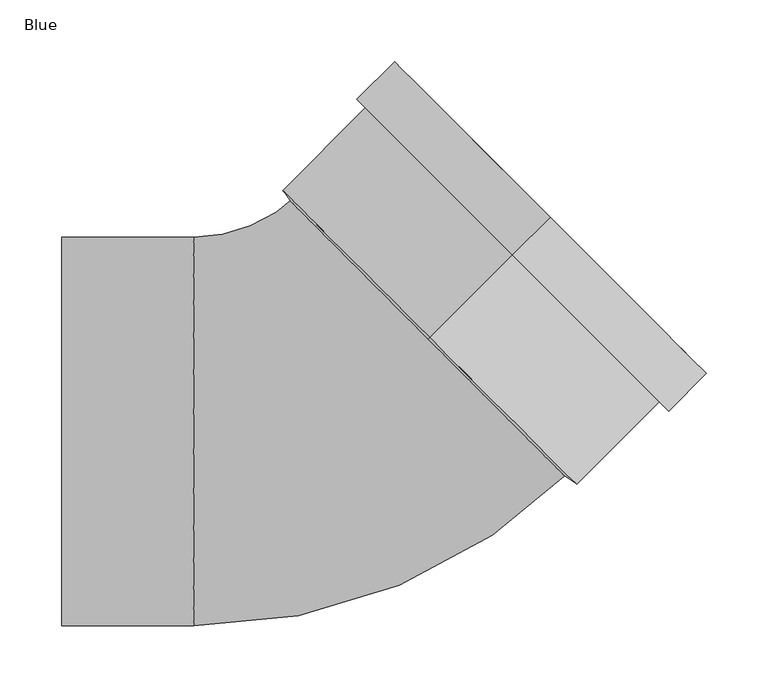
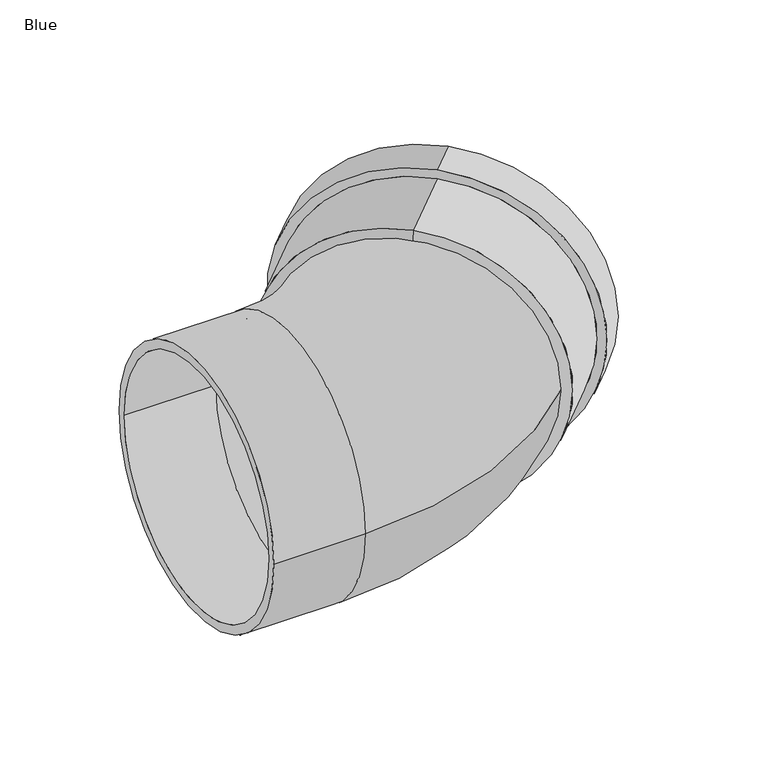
"""IFC4 building model written with IfcOpenShell, lengths in millimetres: pipe fitting geometry, AWADUKT PP SN10 Bend : Blue."""

from ifc_helpers import new_model, si_unit, point, frame, origin, place, context, project, spatial, polyline, circle_curve, ellipse_curve, trimmed, source, transform, mapped, element, save
from ifc_brep_helpers import plane_surface, cylinder_surface, revolved_surface, advanced_brep


def blue_be0330f0(model_context):
    return source(origin(), model_context, "Body", "AdvancedBrep", [
        advanced_brep(
        [(143.1891232, 143.1891232, 168.3), (143.1891232, 143.1891232, -168.3), (76.2558487, 76.2558487, -168.3), (76.2558487, 76.2558487, 168.3), (173.7361361, 173.7361361, 179.1), (173.7361361, 173.7361361, -179.1), (143.1891232, 143.1891232, -179.1), (143.1891232, 143.1891232, 179.1), (166.0993829, 166.0993829, 157.5), (166.0993829, 166.0993829, -157.5), (173.7361361, 173.7361361, -157.5), (173.7361361, 173.7361361, 157.5), (150.8258764, 150.8258764, 168.3), (150.8258764, 150.8258764, -168.3), (166.0993829, 166.0993829, -168.3), (166.0993829, 166.0993829, 168.3), (82.6638455, 82.6638455, 157.5), (82.6638455, 82.6638455, -157.5), (150.8258764, 150.8258764, -157.5), (150.8258764, 150.8258764, 157.5), (81.3172798, 81.3172798, 146.7), (81.3172798, 81.3172798, -146.7), (73.5627174, 73.5627174, 146.7), (73.5627174, 73.5627174, -146.7)],
        [
            (0, 1, circle_curve(frame((143.1891232, 143.1891232, 0.0), z_axis=(-0.7071067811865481, -0.7071067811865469, 0.0), x_axis=(0.0, 0.0, -1.0)), 168.3)),
            (1, 2),
            (2, 3, circle_curve(frame((76.2558487, 76.2558487, 0.0), z_axis=(0.7071067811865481, 0.7071067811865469, 0.0), x_axis=(0.0, 0.0, -1.0)), 168.3)),
            (3, 0),
            (4, 5, circle_curve(frame((173.7361361, 173.7361361, 0.0), z_axis=(-0.7071067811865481, -0.7071067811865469, 0.0), x_axis=(0.0, 0.0, -1.0)), 179.1)),
            (5, 6),
            (6, 7, circle_curve(frame((143.1891232, 143.1891232, 0.0), z_axis=(0.7071067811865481, 0.7071067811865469, 0.0), x_axis=(0.0, 0.0, -1.0)), 179.1)),
            (7, 4),
            (8, 9, circle_curve(frame((166.0993829, 166.0993829, 0.0), z_axis=(-0.7071067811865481, -0.7071067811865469, 0.0), x_axis=(0.0, 0.0, -1.0)), 157.5)),
            (9, 10),
            (10, 11, circle_curve(frame((173.7361361, 173.7361361, 0.0), z_axis=(0.7071067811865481, 0.7071067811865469, 0.0), x_axis=(0.0, 0.0, -1.0)), 157.5)),
            (11, 8),
            (12, 13, circle_curve(frame((150.8258764, 150.8258764, 0.0), z_axis=(-0.7071067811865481, -0.7071067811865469, 0.0), x_axis=(0.0, 0.0, -1.0)), 168.3)),
            (13, 14),
            (14, 15, circle_curve(frame((166.0993829, 166.0993829, 0.0), z_axis=(0.7071067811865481, 0.7071067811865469, 0.0), x_axis=(0.0, 0.0, -1.0)), 168.3)),
            (15, 12),
            (16, 17, circle_curve(frame((82.6638455, 82.6638455, 0.0), z_axis=(-0.7071067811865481, -0.7071067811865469, 0.0), x_axis=(0.0, 0.0, -1.0)), 157.5)),
            (17, 18),
            (18, 19, circle_curve(frame((150.8258764, 150.8258764, 0.0), z_axis=(0.7071067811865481, 0.7071067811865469, 0.0), x_axis=(0.0, 0.0, -1.0)), 157.5)),
            (19, 16),
            (20, 21, circle_curve(frame((81.3172798, 81.3172798, 0.0), z_axis=(-0.7071067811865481, -0.7071067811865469, 0.0), x_axis=(0.0, 0.0, -1.0)), 146.7)),
            (21, 17),
            (16, 20),
            (22, 23, circle_curve(frame((73.5627174, 73.5627174, 0.0), z_axis=(-0.7071067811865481, -0.7071067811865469, 0.0), x_axis=(0.0, 0.0, -1.0)), 146.7)),
            (23, 21),
            (20, 22),
            (2, 23),
            (22, 3),
            (1, 0, circle_curve(frame((143.1891232, 143.1891232, 0.0), z_axis=(-0.7071067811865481, -0.7071067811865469, 0.0), x_axis=(0.0, 0.0, 1.0)), 168.3)),
            (3, 2, circle_curve(frame((76.2558487, 76.2558487, 0.0), z_axis=(0.7071067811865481, 0.7071067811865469, 0.0), x_axis=(0.0, 0.0, 1.0)), 168.3)),
            (6, 7, circle_curve(frame((143.1891232, 143.1891232, 0.0), z_axis=(-0.7071067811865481, -0.7071067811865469, 0.0), x_axis=(0.0, 0.0, 1.0)), 179.1)),
            (5, 4, circle_curve(frame((173.7361361, 173.7361361, 0.0), z_axis=(-0.7071067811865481, -0.7071067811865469, 0.0), x_axis=(0.0, 0.0, 1.0)), 179.1)),
            (10, 11, circle_curve(frame((173.7361361, 173.7361361, 0.0), z_axis=(-0.7071067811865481, -0.7071067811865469, 0.0), x_axis=(0.0, 0.0, 1.0)), 157.5)),
            (9, 8, circle_curve(frame((166.0993829, 166.0993829, 0.0), z_axis=(-0.7071067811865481, -0.7071067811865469, 0.0), x_axis=(0.0, 0.0, 1.0)), 157.5)),
            (14, 15, circle_curve(frame((166.0993829, 166.0993829, 0.0), z_axis=(-0.7071067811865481, -0.7071067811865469, 0.0), x_axis=(0.0, 0.0, 1.0)), 168.3)),
            (13, 12, circle_curve(frame((150.8258764, 150.8258764, 0.0), z_axis=(-0.7071067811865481, -0.7071067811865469, 0.0), x_axis=(0.0, 0.0, 1.0)), 168.3)),
            (18, 19, circle_curve(frame((150.8258764, 150.8258764, 0.0), z_axis=(-0.7071067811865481, -0.7071067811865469, 0.0), x_axis=(0.0, 0.0, 1.0)), 157.5)),
            (17, 16, circle_curve(frame((82.6638455, 82.6638455, 0.0), z_axis=(-0.7071067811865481, -0.7071067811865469, 0.0), x_axis=(0.0, 0.0, 1.0)), 157.5)),
            (21, 20, circle_curve(frame((81.3172798, 81.3172798, 0.0), z_axis=(-0.7071067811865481, -0.7071067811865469, 0.0), x_axis=(0.0, 0.0, 1.0)), 146.7)),
            (23, 22, circle_curve(frame((73.5627174, 73.5627174, 0.0), z_axis=(-0.7071067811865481, -0.7071067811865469, 0.0), x_axis=(0.0, 0.0, 1.0)), 146.7)),
        ],
        [
            cylinder_surface(frame((81.3172798, 81.3172798, 0.0), z_axis=(0.7071067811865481, 0.7071067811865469, 0.0), x_axis=(0.0, 0.0, -1.0)), 168.3),
            cylinder_surface(frame((81.3172798, 81.3172798, 0.0), z_axis=(0.7071067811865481, 0.7071067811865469, 0.0), x_axis=(0.0, 0.0, -1.0)), 179.1),
            revolved_surface(polyline([(173.7361361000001, 173.73613609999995, -157.5), (166.09938290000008, 166.0993828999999, -157.5)]), (81.3172798, 81.3172798, 0.0), (0.7071067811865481, 0.7071067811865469, 0.0)),
            revolved_surface(polyline([(166.09938290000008, 166.0993828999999, -168.3), (150.82587640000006, 150.82587639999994, -168.3)]), (81.3172798, 81.3172798, 0.0), (0.7071067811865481, 0.7071067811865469, 0.0)),
            revolved_surface(polyline([(150.82587640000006, 150.82587639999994, -157.5), (82.6638455, 82.6638455, -157.5)]), (81.3172798, 81.3172798, 0.0), (0.7071067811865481, 0.7071067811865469, 0.0)),
            revolved_surface(polyline([(82.6638455, 82.6638455, -157.5), (81.3172798, 81.3172798, -146.7)]), (81.3172798, 81.3172798, 0.0), (0.7071067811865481, 0.7071067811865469, 0.0)),
            revolved_surface(polyline([(81.3172798, 81.3172798, -146.7), (73.5627174, 73.5627174, -146.7)]), (81.3172798, 81.3172798, 0.0), (0.7071067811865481, 0.7071067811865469, 0.0)),
            revolved_surface(polyline([(73.5627174, 73.5627174, -146.7), (76.2558487, 76.2558487, -168.3)]), (81.3172798, 81.3172798, 0.0), (0.7071067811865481, 0.7071067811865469, 0.0)),
            cylinder_surface(frame((81.3172798, 81.3172798, 0.0), z_axis=(0.7071067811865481, 0.7071067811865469, 0.0), x_axis=(0.0, 0.0, 1.0)), 168.3),
            plane_surface(frame((143.1891232, 143.1891232, 0.0), z_axis=(-0.7071067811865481, -0.7071067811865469, 0.0), x_axis=(0.0, 0.0, 1.0))),
            cylinder_surface(frame((81.3172798, 81.3172798, 0.0), z_axis=(0.7071067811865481, 0.7071067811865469, 0.0), x_axis=(0.0, 0.0, 1.0)), 179.1),
            plane_surface(frame((173.7361361, 173.7361361, 0.0), z_axis=(0.7071067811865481, 0.7071067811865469, 0.0), x_axis=(0.0, 0.0, 1.0))),
            revolved_surface(polyline([(173.7361361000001, 173.73613609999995, 157.5), (166.09938290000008, 166.0993828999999, 157.5)]), (81.3172798, 81.3172798, 0.0), (0.7071067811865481, 0.7071067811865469, 0.0)),
            plane_surface(frame((166.0993829, 166.0993829, 0.0), z_axis=(-0.7071067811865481, -0.7071067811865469, 0.0), x_axis=(0.0, 0.0, 1.0))),
            revolved_surface(polyline([(166.09938290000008, 166.0993828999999, 168.3), (150.82587640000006, 150.82587639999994, 168.3)]), (81.3172798, 81.3172798, 0.0), (0.7071067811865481, 0.7071067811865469, 0.0)),
            plane_surface(frame((150.8258764, 150.8258764, 0.0), z_axis=(0.7071067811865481, 0.7071067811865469, 0.0), x_axis=(0.0, 0.0, 1.0))),
            revolved_surface(polyline([(150.82587640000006, 150.82587639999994, 157.5), (82.6638455, 82.6638455, 157.5)]), (81.3172798, 81.3172798, 0.0), (0.7071067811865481, 0.7071067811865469, 0.0)),
            revolved_surface(polyline([(82.6638455, 82.6638455, 157.5), (81.3172798, 81.3172798, 146.7)]), (81.3172798, 81.3172798, 0.0), (0.7071067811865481, 0.7071067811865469, 0.0)),
            revolved_surface(polyline([(81.3172798, 81.3172798, 146.7), (73.5627174, 73.5627174, 146.7)]), (81.3172798, 81.3172798, 0.0), (0.7071067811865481, 0.7071067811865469, 0.0)),
            revolved_surface(polyline([(73.5627174, 73.5627174, 146.7), (76.2558487, 76.2558487, 168.3)]), (81.3172798, 81.3172798, 0.0), (0.7071067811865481, 0.7071067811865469, 0.0)),
        ],
        [
            (0, [[1, 2, 3, 4]]),
            (1, [[5, 6, 7, 8]]),
            (2, [[9, 10, 11, 12]]),
            (3, [[13, 14, 15, 16]]),
            (4, [[17, 18, 19, 20]]),
            (5, [[21, 22, -17, 23]]),
            (6, [[24, 25, -21, 26]]),
            (7, [[-3, 27, -24, 28]]),
            (8, [[29, -4, 30, -2]]),
            (9, [[31, -7], [-29, -1]]),
            (10, [[32, -8, -31, -6]]),
            (11, [[-32, -5], [33, -11]]),
            (12, [[34, -12, -33, -10]]),
            (13, [[35, -15], [-34, -9]]),
            (14, [[36, -16, -35, -14]]),
            (15, [[-36, -13], [37, -19]]),
            (16, [[38, -20, -37, -18]]),
            (17, [[39, -23, -38, -22]]),
            (18, [[40, -26, -39, -25]]),
            (19, [[-30, -28, -40, -27]]),
        ],
    ),
        advanced_brep(
        [(-222.0, -157.5, 0.0), (-222.0, 157.5, 0.0), (-222.0, -146.7, 0.0), (-222.0, 146.7, 0.0), (192.6865979, -30.0520382, 0.0), (-30.0520382, 192.6865979, 0.0), (185.0498446, -22.415285, 0.0), (-22.415285, 185.0498446, 0.0), (-115.0, -146.7, 0.0), (-115.0, 146.7, 0.0), (-115.0, -157.5, 0.0), (-115.0, 157.5, 0.0)],
        [
            (0, 1, circle_curve(frame((-222.0, 0.0, 0.0), z_axis=(-1.0, 0.0, 0.0), x_axis=(0.0, 1.0, 0.0)), 157.5)),
            (1, 0, circle_curve(frame((-222.0, 0.0, 0.0), z_axis=(-1.0, 0.0, 0.0), x_axis=(0.0, 1.0, 0.0)), 157.5)),
            (2, 3, circle_curve(frame((-222.0, 0.0, 0.0), z_axis=(1.0, 0.0, 0.0), x_axis=(0.0, 1.0, 0.0)), 146.7)),
            (3, 2, circle_curve(frame((-222.0, 0.0, 0.0), z_axis=(1.0, 0.0, 0.0), x_axis=(0.0, 1.0, 0.0)), 146.7)),
            (4, 5, circle_curve(frame((81.3172798, 81.3172798, 0.0), z_axis=(0.7071067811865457, 0.7071067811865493, 0.0), x_axis=(-0.7071067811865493, 0.7071067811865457, 0.0)), 157.5)),
            (5, 4, circle_curve(frame((81.3172798, 81.3172798, 0.0), z_axis=(0.7071067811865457, 0.7071067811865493, 0.0), x_axis=(-0.7071067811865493, 0.7071067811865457, 0.0)), 157.5)),
            (6, 7, circle_curve(frame((81.3172798, 81.3172798, 0.0), z_axis=(-0.7071067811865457, -0.7071067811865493, 0.0), x_axis=(-0.7071067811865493, 0.7071067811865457, 0.0)), 146.7)),
            (7, 6, circle_curve(frame((81.3172798, 81.3172798, 0.0), z_axis=(-0.7071067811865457, -0.7071067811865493, 0.0), x_axis=(-0.7071067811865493, 0.7071067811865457, 0.0)), 146.7)),
            (2, 8),
            (8, 9, circle_curve(frame((-115.0, 0.0, 0.0), z_axis=(1.0, 0.0, 0.0), x_axis=(0.0, 1.0, 0.0)), 146.7)),
            (9, 3),
            (9, 8, circle_curve(frame((-115.0, 0.0, 0.0), z_axis=(1.0, 0.0, 0.0), x_axis=(0.0, 1.0, 0.0)), 146.7)),
            (0, 10),
            (10, 11, circle_curve(frame((-115.0, 0.0, 0.0), z_axis=(-1.0, 0.0, 0.0), x_axis=(0.0, 1.0, 0.0)), 157.5)),
            (11, 1),
            (11, 10, circle_curve(frame((-115.0, 0.0, 0.0), z_axis=(-1.0, 0.0, 0.0), x_axis=(0.0, 1.0, 0.0)), 157.5)),
            (7, 9, circle_curve(frame((-115.0, 277.6345597, 0.0), z_axis=(0.0, 0.0, -1.0), x_axis=(0.0, -1.0, 0.0)), 130.9345597)),
            (8, 6, circle_curve(frame((-115.0, 277.6345597, 0.0), z_axis=(0.0, 0.0, 1.0), x_axis=(0.0, -1.0, 0.0)), 424.3345597)),
            (5, 11, circle_curve(frame((-115.0, 277.6345597, 0.0), z_axis=(0.0, 0.0, -1.0), x_axis=(0.0, -1.0, 0.0)), 120.1345597)),
            (10, 4, circle_curve(frame((-115.0, 277.6345597, 0.0), z_axis=(0.0, 0.0, 1.0), x_axis=(0.0, -1.0, 0.0)), 435.1345597)),
        ],
        [
            plane_surface(frame((-222.0, 0.0, 0.0), z_axis=(-1.0, 0.0, 0.0), x_axis=(0.0, 0.0, 1.0))),
            plane_surface(frame((81.3172798, 81.3172798, 0.0), z_axis=(0.7071067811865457, 0.7071067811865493, 0.0), x_axis=(0.0, 0.0, 1.0))),
            revolved_surface(polyline([(-115.0, 146.7, 0.0), (-222.0, 146.7, 0.0)]), (-222.0, 0.0, 0.0), (1.0, 0.0, 0.0)),
            cylinder_surface(frame((-222.0, 0.0, 0.0), z_axis=(-1.0, 0.0, 0.0), x_axis=(0.0, 1.0, 0.0)), 157.5),
            revolved_surface(trimmed(ellipse_curve(frame((-115.0, 0.0, 0.0), z_axis=(1.0, 0.0, 0.0), x_axis=(0.0, 1.0, 0.0)), 146.7, 146.7), [point((-115.0, -146.7, 0.0))], [point((-115.0, 146.7, 0.0))], True, "CARTESIAN"), (-115.0, 277.6345597, 0.0), (0.0, 0.0, 1.0)),
            revolved_surface(trimmed(ellipse_curve(frame((-115.0, 0.0, 0.0), z_axis=(1.0, 0.0, 0.0), x_axis=(0.0, 1.0, 0.0)), 146.7, 146.7), [point((-115.0, 146.7, 0.0))], [point((-115.0, -146.7, 0.0))], True, "CARTESIAN"), (-115.0, 277.6345597, 0.0), (0.0, 0.0, 1.0)),
            revolved_surface(trimmed(ellipse_curve(frame((-115.0, 0.0, 0.0), z_axis=(-1.0, 0.0, 0.0), x_axis=(0.0, 1.0, 0.0)), 157.5, 157.5), [point((-115.0, -157.5, 0.0))], [point((-115.0, 157.5, 0.0))], True, "CARTESIAN"), (-115.0, 277.6345597, 0.0), (0.0, 0.0, 1.0)),
            revolved_surface(trimmed(ellipse_curve(frame((-115.0, 0.0, 0.0), z_axis=(-1.0, 0.0, 0.0), x_axis=(0.0, 1.0, 0.0)), 157.5, 157.5), [point((-115.0, 157.5, 0.0))], [point((-115.0, -157.5, 0.0))], True, "CARTESIAN"), (-115.0, 277.6345597, 0.0), (0.0, 0.0, 1.0)),
        ],
        [
            (0, [[1, 2], [3, 4]]),
            (1, [[5, 6], [7, 8]]),
            (2, [[-3, 9, 10, 11]]),
            (2, [[-4, -11, 12, -9]]),
            (3, [[-1, 13, 14, 15]]),
            (3, [[-2, -15, 16, -13]]),
            (4, [[17, -10, 18, -8]]),
            (5, [[-18, -12, -17, -7]]),
            (6, [[19, -14, 20, -6]]),
            (7, [[-20, -16, -19, -5]]),
        ],
    ),
    ])


if __name__ == "__main__":
    model = new_model("IFC4")
    model_context = context("Model", 3, world=origin())
    ifc_project = project(units=[si_unit("LENGTHUNIT", "METRE", prefix="MILLI")], contexts=[model_context])
    site = spatial("IfcSite", under=ifc_project)
    building = spatial("IfcBuilding", under=site)
    placement = place(None, origin())
    blue_shape = blue_be0330f0(model_context)
    element("IfcPipeFitting", 1, ObjectType="AWADUKT PP SN10 Bend : Blue", at=placement, inside=building, context=model_context, shape_type="MappedRepresentation", body=[
        mapped(blue_shape, transform((0.0, 0.0, 0.0), x_axis=(1.0, 0.0, 0.0), y_axis=(0.0, 1.0, 0.0), z_axis=(0.0, 0.0, 1.0))),
    ])
    save(model, "model.ifc")
